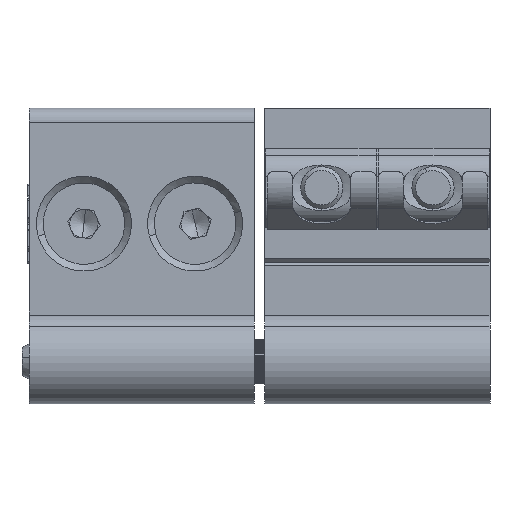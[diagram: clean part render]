
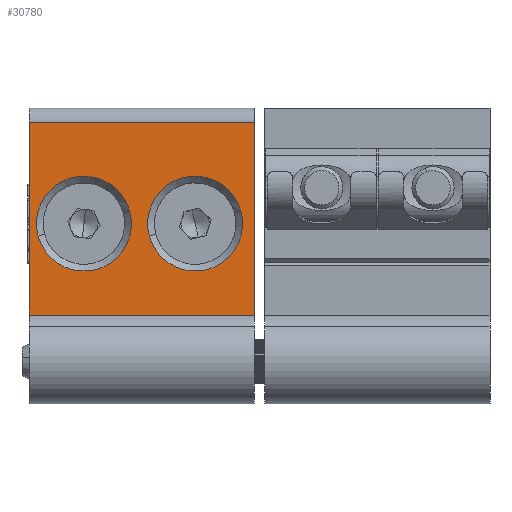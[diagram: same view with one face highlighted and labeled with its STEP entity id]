
A CAD part, front view. The second image highlights one B-rep face of the part: STEP entity #30780.
In plain terms, the highlighted planar face has unit normal (0, -1, 0).
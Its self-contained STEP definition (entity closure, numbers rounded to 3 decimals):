
#104 = EDGE_LOOP ( 'NONE', ( #7138, #12573, #29757, #13846 ) ) ;
#391 = AXIS2_PLACEMENT_3D ( 'NONE', #4686, #2537, #15389 ) ;
#525 = CIRCLE ( 'NONE', #6144, 6.75 ) ;
#787 = DIRECTION ( 'NONE',  ( 1., 0., 0. ) ) ;
#1511 = CARTESIAN_POINT ( 'NONE',  ( 650.923, 867.726, 1264.068 ) ) ;
#2537 = DIRECTION ( 'NONE',  ( 0., -1., 0. ) ) ;
#3218 = DIRECTION ( 'NONE',  ( 0., 0., -1. ) ) ;
#3324 = VERTEX_POINT ( 'NONE', #15080 ) ;
#3556 = VERTEX_POINT ( 'NONE', #29194 ) ;
#3741 = CIRCLE ( 'NONE', #391, 6.75 ) ;
#3974 = EDGE_CURVE ( 'NONE', #28668, #3324, #19916, .T. ) ;
#3989 = EDGE_CURVE ( 'NONE', #3324, #27625, #30717, .T. ) ;
#4686 = CARTESIAN_POINT ( 'NONE',  ( 666.723, 867.726, 1264.068 ) ) ;
#4734 = EDGE_CURVE ( 'NONE', #10419, #13285, #29907, .T. ) ;
#4938 = EDGE_LOOP ( 'NONE', ( #28051, #22026 ) ) ;
#5534 = VECTOR ( 'NONE', #3218, 1000. ) ;
#6144 = AXIS2_PLACEMENT_3D ( 'NONE', #1511, #14538, #20492 ) ;
#6169 = VECTOR ( 'NONE', #26474, 1000. ) ;
#6515 = EDGE_CURVE ( 'NONE', #3556, #10916, #22138, .T. ) ;
#6575 = CARTESIAN_POINT ( 'NONE',  ( 644.407, 867.726, 1262.307 ) ) ;
#7071 = DIRECTION ( 'NONE',  ( 0., 0., -1. ) ) ;
#7138 = ORIENTED_EDGE ( 'NONE', *, *, #3989, .T. ) ;
#7807 = VECTOR ( 'NONE', #787, 1000. ) ;
#8328 = EDGE_CURVE ( 'NONE', #13285, #10419, #525, .T. ) ;
#8474 = DIRECTION ( 'NONE',  ( 1., 0., 0. ) ) ;
#9067 = ORIENTED_EDGE ( 'NONE', *, *, #6515, .F. ) ;
#9356 = EDGE_CURVE ( 'NONE', #11333, #28668, #12554, .T. ) ;
#10419 = VERTEX_POINT ( 'NONE', #11527 ) ;
#10916 = VERTEX_POINT ( 'NONE', #33064 ) ;
#10917 = CARTESIAN_POINT ( 'NONE',  ( 666.723, 867.726, 1264.068 ) ) ;
#11006 = DIRECTION ( 'NONE',  ( -1., 0., 0. ) ) ;
#11333 = VERTEX_POINT ( 'NONE', #26656 ) ;
#11527 = CARTESIAN_POINT ( 'NONE',  ( 657.439, 867.726, 1265.829 ) ) ;
#11617 = FACE_BOUND ( 'NONE', #28965, .T. ) ;
#11696 = CARTESIAN_POINT ( 'NONE',  ( 643.123, 867.726, 1251.082 ) ) ;
#12406 = VECTOR ( 'NONE', #31063, 1000. ) ;
#12554 = LINE ( 'NONE', #22939, #12406 ) ;
#12573 = ORIENTED_EDGE ( 'NONE', *, *, #30309, .T. ) ;
#13223 = CARTESIAN_POINT ( 'NONE',  ( 643.123, 867.726, 1278.468 ) ) ;
#13285 = VERTEX_POINT ( 'NONE', #6575 ) ;
#13846 = ORIENTED_EDGE ( 'NONE', *, *, #3974, .T. ) ;
#13884 = PLANE ( 'NONE',  #23111 ) ;
#14538 = DIRECTION ( 'NONE',  ( 0., -1., 0. ) ) ;
#14720 = AXIS2_PLACEMENT_3D ( 'NONE', #15269, #24005, #11006 ) ;
#14761 = DIRECTION ( 'NONE',  ( 0., -1., 0. ) ) ;
#15080 = CARTESIAN_POINT ( 'NONE',  ( 643.123, 867.726, 1251.082 ) ) ;
#15269 = CARTESIAN_POINT ( 'NONE',  ( 650.923, 867.726, 1264.068 ) ) ;
#15389 = DIRECTION ( 'NONE',  ( 1., 0., 0. ) ) ;
#17897 = CARTESIAN_POINT ( 'NONE',  ( 675.763, 867.726, 1264.775 ) ) ;
#19916 = LINE ( 'NONE', #33325, #5534 ) ;
#20492 = DIRECTION ( 'NONE',  ( -1., 0., 0. ) ) ;
#22026 = ORIENTED_EDGE ( 'NONE', *, *, #4734, .F. ) ;
#22138 = CIRCLE ( 'NONE', #31158, 6.75 ) ;
#22251 = ORIENTED_EDGE ( 'NONE', *, *, #22289, .F. ) ;
#22289 = EDGE_CURVE ( 'NONE', #10916, #3556, #3741, .T. ) ;
#22939 = CARTESIAN_POINT ( 'NONE',  ( 675.123, 867.726, 1278.468 ) ) ;
#23111 = AXIS2_PLACEMENT_3D ( 'NONE', #17897, #14761, #7071 ) ;
#24005 = DIRECTION ( 'NONE',  ( 0., -1., 0. ) ) ;
#24023 = LINE ( 'NONE', #28932, #6169 ) ;
#24703 = CARTESIAN_POINT ( 'NONE',  ( 675.123, 867.726, 1251.082 ) ) ;
#24971 = FACE_BOUND ( 'NONE', #4938, .T. ) ;
#26474 = DIRECTION ( 'NONE',  ( 0., 0., 1. ) ) ;
#26656 = CARTESIAN_POINT ( 'NONE',  ( 675.123, 867.726, 1278.468 ) ) ;
#27625 = VERTEX_POINT ( 'NONE', #24703 ) ;
#28051 = ORIENTED_EDGE ( 'NONE', *, *, #8328, .F. ) ;
#28668 = VERTEX_POINT ( 'NONE', #13223 ) ;
#28932 = CARTESIAN_POINT ( 'NONE',  ( 675.123, 867.726, 1251.082 ) ) ;
#28965 = EDGE_LOOP ( 'NONE', ( #22251, #9067 ) ) ;
#29194 = CARTESIAN_POINT ( 'NONE',  ( 673.239, 867.726, 1265.829 ) ) ;
#29691 = DIRECTION ( 'NONE',  ( 0., -1., 0. ) ) ;
#29757 = ORIENTED_EDGE ( 'NONE', *, *, #9356, .T. ) ;
#29907 = CIRCLE ( 'NONE', #14720, 6.75 ) ;
#30309 = EDGE_CURVE ( 'NONE', #27625, #11333, #24023, .T. ) ;
#30635 = FACE_OUTER_BOUND ( 'NONE', #104, .T. ) ;
#30717 = LINE ( 'NONE', #11696, #7807 ) ;
#30780 = ADVANCED_FACE ( 'NONE', ( #24971, #11617, #30635 ), #13884, .T. ) ;
#31063 = DIRECTION ( 'NONE',  ( -1., 0., 0. ) ) ;
#31158 = AXIS2_PLACEMENT_3D ( 'NONE', #10917, #29691, #8474 ) ;
#33064 = CARTESIAN_POINT ( 'NONE',  ( 660.207, 867.726, 1262.307 ) ) ;
#33325 = CARTESIAN_POINT ( 'NONE',  ( 643.123, 867.726, 1278.468 ) ) ;
